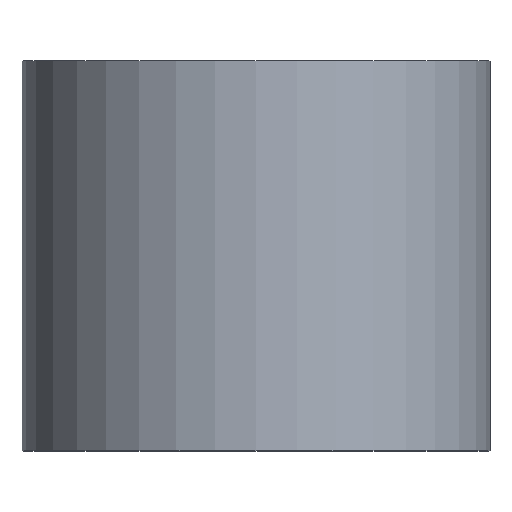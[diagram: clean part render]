
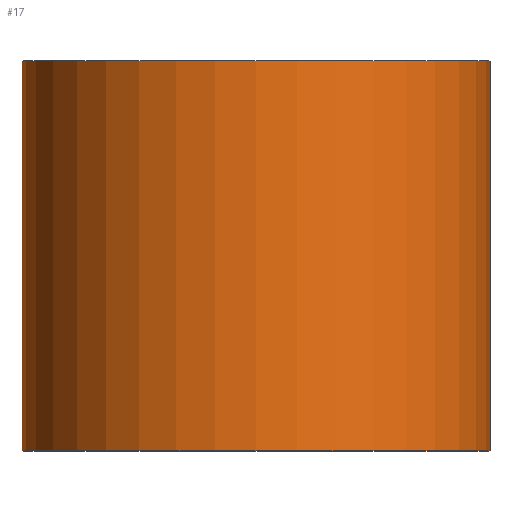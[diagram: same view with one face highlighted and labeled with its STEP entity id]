
A CAD part, top view. The second image highlights one B-rep face of the part: STEP entity #17.
In plain terms, the highlighted cylindrical face has radius 6 mm (diameter 12 mm), a full revolution.
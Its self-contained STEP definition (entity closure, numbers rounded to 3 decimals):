
#17 = ADVANCED_FACE('',(#18),#32,.T.);
#18 = FACE_BOUND('',#19,.F.);
#19 = EDGE_LOOP('',(#20,#50,#77,#78));
#20 = ORIENTED_EDGE('',*,*,#21,.T.);
#21 = EDGE_CURVE('',#22,#24,#26,.T.);
#22 = VERTEX_POINT('',#23);
#23 = CARTESIAN_POINT('',(-37.,16.,80.));
#24 = VERTEX_POINT('',#25);
#25 = CARTESIAN_POINT('',(-37.,6.,80.));
#26 = SEAM_CURVE('',#27,(#31,#43),.PCURVE_S1.);
#27 = LINE('',#28,#29);
#28 = CARTESIAN_POINT('',(-37.,16.,80.));
#29 = VECTOR('',#30,1.);
#30 = DIRECTION('',(0.,-1.,0.));
#31 = PCURVE('',#32,#37);
#32 = CYLINDRICAL_SURFACE('',#33,6.);
#33 = AXIS2_PLACEMENT_3D('',#34,#35,#36);
#34 = CARTESIAN_POINT('',(-43.,16.,80.));
#35 = DIRECTION('',(-0.,1.,0.));
#36 = DIRECTION('',(1.,0.,0.));
#37 = DEFINITIONAL_REPRESENTATION('',(#38),#42);
#38 = LINE('',#39,#40);
#39 = CARTESIAN_POINT('',(-0.,0.));
#40 = VECTOR('',#41,1.);
#41 = DIRECTION('',(-0.,-1.));
#42 = ( GEOMETRIC_REPRESENTATION_CONTEXT(2) 
PARAMETRIC_REPRESENTATION_CONTEXT() REPRESENTATION_CONTEXT('2D SPACE',''
  ) );
#43 = PCURVE('',#32,#44);
#44 = DEFINITIONAL_REPRESENTATION('',(#45),#49);
#45 = LINE('',#46,#47);
#46 = CARTESIAN_POINT('',(-6.283,0.));
#47 = VECTOR('',#48,1.);
#48 = DIRECTION('',(-0.,-1.));
#49 = ( GEOMETRIC_REPRESENTATION_CONTEXT(2) 
PARAMETRIC_REPRESENTATION_CONTEXT() REPRESENTATION_CONTEXT('2D SPACE',''
  ) );
#50 = ORIENTED_EDGE('',*,*,#51,.T.);
#51 = EDGE_CURVE('',#24,#24,#52,.T.);
#52 = SURFACE_CURVE('',#53,(#58,#65),.PCURVE_S1.);
#53 = CIRCLE('',#54,6.);
#54 = AXIS2_PLACEMENT_3D('',#55,#56,#57);
#55 = CARTESIAN_POINT('',(-43.,6.,80.));
#56 = DIRECTION('',(0.,-1.,0.));
#57 = DIRECTION('',(1.,0.,0.));
#58 = PCURVE('',#32,#59);
#59 = DEFINITIONAL_REPRESENTATION('',(#60),#64);
#60 = LINE('',#61,#62);
#61 = CARTESIAN_POINT('',(-0.,-10.));
#62 = VECTOR('',#63,1.);
#63 = DIRECTION('',(-1.,0.));
#64 = ( GEOMETRIC_REPRESENTATION_CONTEXT(2) 
PARAMETRIC_REPRESENTATION_CONTEXT() REPRESENTATION_CONTEXT('2D SPACE',''
  ) );
#65 = PCURVE('',#66,#71);
#66 = PLANE('',#67);
#67 = AXIS2_PLACEMENT_3D('',#68,#69,#70);
#68 = CARTESIAN_POINT('',(-43.,6.,80.));
#69 = DIRECTION('',(0.,-1.,0.));
#70 = DIRECTION('',(1.,0.,0.));
#71 = DEFINITIONAL_REPRESENTATION('',(#72),#76);
#72 = CIRCLE('',#73,6.);
#73 = AXIS2_PLACEMENT_2D('',#74,#75);
#74 = CARTESIAN_POINT('',(0.,0.));
#75 = DIRECTION('',(1.,0.));
#76 = ( GEOMETRIC_REPRESENTATION_CONTEXT(2) 
PARAMETRIC_REPRESENTATION_CONTEXT() REPRESENTATION_CONTEXT('2D SPACE',''
  ) );
#77 = ORIENTED_EDGE('',*,*,#21,.F.);
#78 = ORIENTED_EDGE('',*,*,#79,.F.);
#79 = EDGE_CURVE('',#22,#22,#80,.T.);
#80 = SURFACE_CURVE('',#81,(#86,#93),.PCURVE_S1.);
#81 = CIRCLE('',#82,6.);
#82 = AXIS2_PLACEMENT_3D('',#83,#84,#85);
#83 = CARTESIAN_POINT('',(-43.,16.,80.));
#84 = DIRECTION('',(0.,-1.,0.));
#85 = DIRECTION('',(1.,0.,0.));
#86 = PCURVE('',#32,#87);
#87 = DEFINITIONAL_REPRESENTATION('',(#88),#92);
#88 = LINE('',#89,#90);
#89 = CARTESIAN_POINT('',(-0.,0.));
#90 = VECTOR('',#91,1.);
#91 = DIRECTION('',(-1.,0.));
#92 = ( GEOMETRIC_REPRESENTATION_CONTEXT(2) 
PARAMETRIC_REPRESENTATION_CONTEXT() REPRESENTATION_CONTEXT('2D SPACE',''
  ) );
#93 = PCURVE('',#94,#99);
#94 = PLANE('',#95);
#95 = AXIS2_PLACEMENT_3D('',#96,#97,#98);
#96 = CARTESIAN_POINT('',(-43.,16.,80.));
#97 = DIRECTION('',(0.,-1.,0.));
#98 = DIRECTION('',(1.,0.,0.));
#99 = DEFINITIONAL_REPRESENTATION('',(#100),#104);
#100 = CIRCLE('',#101,6.);
#101 = AXIS2_PLACEMENT_2D('',#102,#103);
#102 = CARTESIAN_POINT('',(0.,0.));
#103 = DIRECTION('',(1.,0.));
#104 = ( GEOMETRIC_REPRESENTATION_CONTEXT(2) 
PARAMETRIC_REPRESENTATION_CONTEXT() REPRESENTATION_CONTEXT('2D SPACE',''
  ) );
